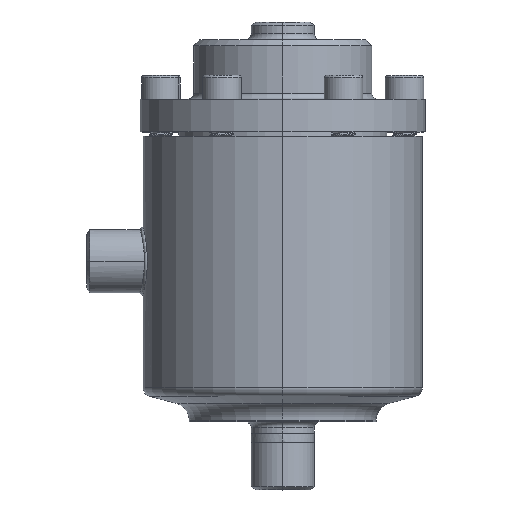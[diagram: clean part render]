
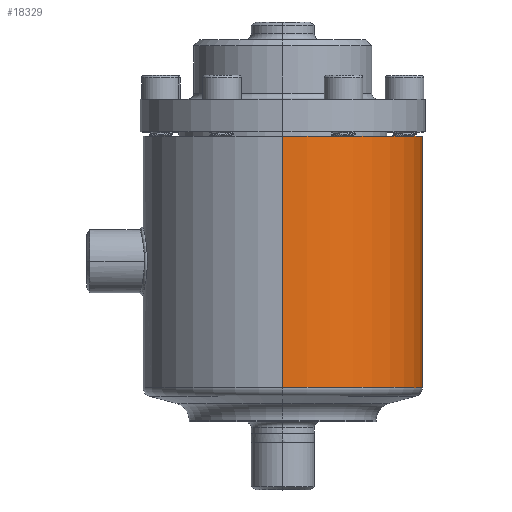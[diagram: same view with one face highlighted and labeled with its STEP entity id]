
A CAD part, top view. The second image highlights one B-rep face of the part: STEP entity #18329.
In plain terms, the highlighted cylindrical face has radius 47 mm (diameter 94 mm), a partial arc.
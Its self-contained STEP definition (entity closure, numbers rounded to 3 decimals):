
#240 = VERTEX_POINT ( 'NONE', #15085 ) ;
#16929 = ORIENTED_EDGE ( 'NONE', *, *, #21101, .T. ) ;
#17884 = EDGE_LOOP ( 'NONE', ( #16929, #15936, #14322, #13226 ) ) ;
#18329 = ADVANCED_FACE ( 'NONE', ( #13581 ), #13582, .T. ) ;
#3327 = LINE ( 'NONE', #3333, #3334 ) ;
#3333 = CARTESIAN_POINT ( 'NONE',  ( 0., 76.795, 47. ) ) ;
#3334 = VECTOR ( 'NONE', #3335, 1000. ) ;
#3335 = DIRECTION ( 'NONE',  ( 0., 1., 0. ) ) ;
#4230 = CARTESIAN_POINT ( 'NONE',  ( 0., -4.017, 47. ) ) ;
#20686 = VERTEX_POINT ( 'NONE', #4230 ) ;
#4678 = CIRCLE ( 'NONE', #4679, 47. ) ;
#4679 = AXIS2_PLACEMENT_3D ( 'NONE', #4680, #4681, #4682 ) ;
#4680 = CARTESIAN_POINT ( 'NONE',  ( 0., -4.017, 0. ) ) ;
#4681 = DIRECTION ( 'NONE',  ( 0., 1., 0. ) ) ;
#4682 = DIRECTION ( 'NONE',  ( 0., 0., 1. ) ) ;
#21101 = EDGE_CURVE ( 'NONE', #20686, #240, #4678, .T. ) ;
#9146 = CARTESIAN_POINT ( 'NONE',  ( 0., 80.527, 47. ) ) ;
#9475 = CIRCLE ( 'NONE', #9481, 47. ) ;
#9481 = AXIS2_PLACEMENT_3D ( 'NONE', #9482, #9483, #9484 ) ;
#9482 = CARTESIAN_POINT ( 'NONE',  ( 0., 80.527, 0. ) ) ;
#9483 = DIRECTION ( 'NONE',  ( 0., 1., 0. ) ) ;
#9484 = DIRECTION ( 'NONE',  ( 0., 0., 1. ) ) ;
#10880 = CARTESIAN_POINT ( 'NONE',  ( 0., 80.527, -47. ) ) ;
#11275 = LINE ( 'NONE', #11276, #11277 ) ;
#11276 = CARTESIAN_POINT ( 'NONE',  ( 0., 76.795, -47. ) ) ;
#11277 = VECTOR ( 'NONE', #11278, 1000. ) ;
#11278 = DIRECTION ( 'NONE',  ( 0., 1., 0. ) ) ;
#12870 = EDGE_CURVE ( 'NONE', #20686, #13737, #3327, .T. ) ;
#13226 = ORIENTED_EDGE ( 'NONE', *, *, #12870, .F. ) ;
#13581 = FACE_OUTER_BOUND ( 'NONE', #17884, .T. ) ;
#13582 = CYLINDRICAL_SURFACE ( 'NONE', #13583, 47. ) ;
#13583 = AXIS2_PLACEMENT_3D ( 'NONE', #13584, #13585, #13586 ) ;
#13584 = CARTESIAN_POINT ( 'NONE',  ( 0., 76.795, 0. ) ) ;
#13585 = DIRECTION ( 'NONE',  ( 0., 1., 0. ) ) ;
#13586 = DIRECTION ( 'NONE',  ( 0., 0., 1. ) ) ;
#13737 = VERTEX_POINT ( 'NONE', #9146 ) ;
#13960 = EDGE_CURVE ( 'NONE', #13737, #14836, #9475, .T. ) ;
#14322 = ORIENTED_EDGE ( 'NONE', *, *, #13960, .F. ) ;
#14836 = VERTEX_POINT ( 'NONE', #10880 ) ;
#15085 = CARTESIAN_POINT ( 'NONE',  ( 0., -4.017, -47. ) ) ;
#15242 = EDGE_CURVE ( 'NONE', #240, #14836, #11275, .T. ) ;
#15936 = ORIENTED_EDGE ( 'NONE', *, *, #15242, .T. ) ;
